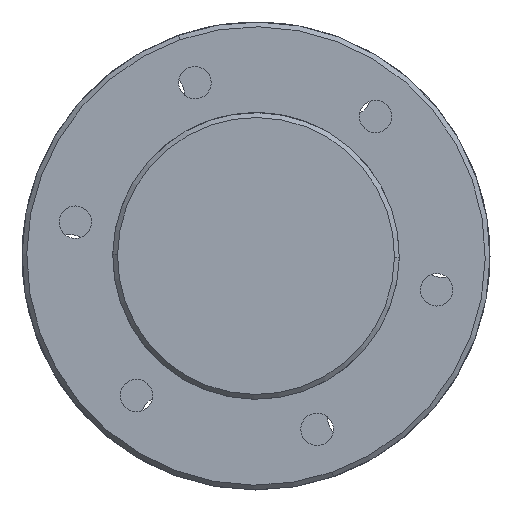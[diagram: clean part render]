
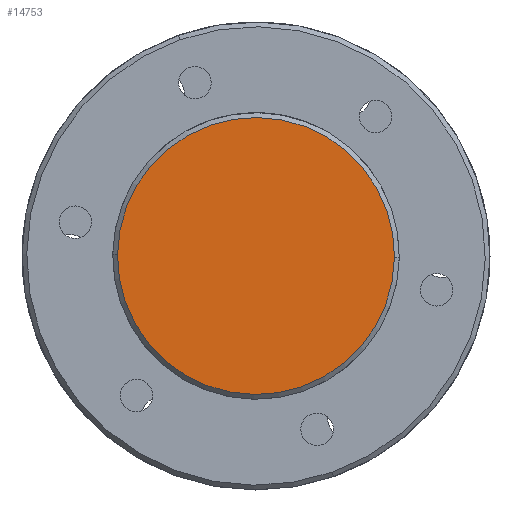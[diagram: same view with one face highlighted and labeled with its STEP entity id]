
A CAD part, left-side view. The second image highlights one B-rep face of the part: STEP entity #14753.
In plain terms, the highlighted planar face has unit normal (-1, 0, 0).
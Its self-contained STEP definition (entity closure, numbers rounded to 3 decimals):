
#984 = ORIENTED_EDGE ( 'NONE', *, *, #14182, .T. ) ;
#1020 = CARTESIAN_POINT ( 'NONE',  ( 0., 0., 0. ) ) ;
#3514 = CIRCLE ( 'NONE', #15729, 29. ) ;
#3546 = AXIS2_PLACEMENT_3D ( 'NONE', #16379, #4468, #13087 ) ;
#4468 = DIRECTION ( 'NONE',  ( -1., 0., 0. ) ) ;
#9253 = EDGE_LOOP ( 'NONE', ( #984, #15140 ) ) ;
#9325 = PLANE ( 'NONE',  #14721 ) ;
#10901 = VERTEX_POINT ( 'NONE', #20873 ) ;
#11213 = CIRCLE ( 'NONE', #3546, 29. ) ;
#12116 = CARTESIAN_POINT ( 'NONE',  ( 0., 0., 29. ) ) ;
#12267 = DIRECTION ( 'NONE',  ( 0., 0., -1. ) ) ;
#12655 = CARTESIAN_POINT ( 'NONE',  ( 0., 0., 0. ) ) ;
#13087 = DIRECTION ( 'NONE',  ( 0., 0., -1. ) ) ;
#14182 = EDGE_CURVE ( 'NONE', #10901, #17385, #11213, .T. ) ;
#14227 = FACE_OUTER_BOUND ( 'NONE', #9253, .T. ) ;
#14347 = DIRECTION ( 'NONE',  ( 1., 0., 0. ) ) ;
#14721 = AXIS2_PLACEMENT_3D ( 'NONE', #1020, #14347, #12267 ) ;
#14753 = ADVANCED_FACE ( 'NONE', ( #14227 ), #9325, .F. ) ;
#15140 = ORIENTED_EDGE ( 'NONE', *, *, #21111, .T. ) ;
#15729 = AXIS2_PLACEMENT_3D ( 'NONE', #12655, #20868, #17485 ) ;
#16379 = CARTESIAN_POINT ( 'NONE',  ( 0., 0., 0. ) ) ;
#17385 = VERTEX_POINT ( 'NONE', #12116 ) ;
#17485 = DIRECTION ( 'NONE',  ( 0., 0., -1. ) ) ;
#20868 = DIRECTION ( 'NONE',  ( -1., 0., 0. ) ) ;
#20873 = CARTESIAN_POINT ( 'NONE',  ( 0., 0., -29. ) ) ;
#21111 = EDGE_CURVE ( 'NONE', #17385, #10901, #3514, .T. ) ;
